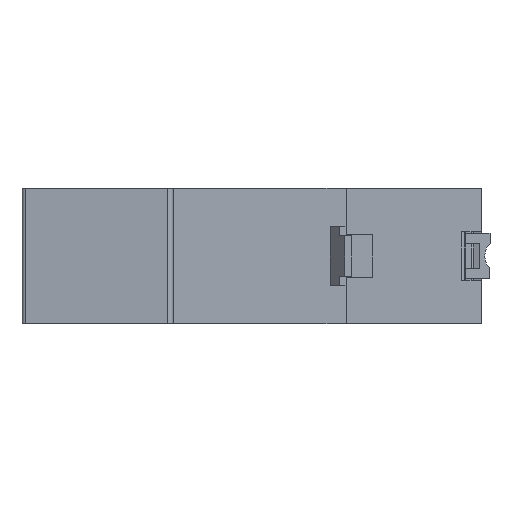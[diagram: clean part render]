
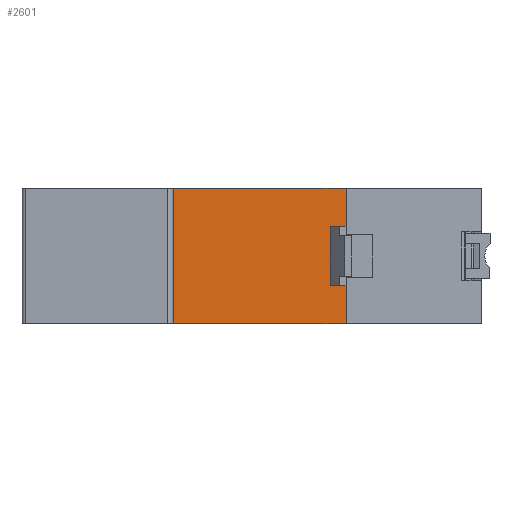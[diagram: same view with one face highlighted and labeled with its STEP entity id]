
A CAD part, front view. The second image highlights one B-rep face of the part: STEP entity #2601.
In plain terms, the highlighted planar face has unit normal (0, -1, 0).
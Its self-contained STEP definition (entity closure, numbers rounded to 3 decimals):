
#172 = EDGE_CURVE ( 'NONE', #1686, #1611, #5415, .T. ) ;
#363 = EDGE_CURVE ( 'NONE', #1611, #1609, #7275, .T. ) ;
#1609 = VERTEX_POINT ( 'NONE', #11028 ) ;
#1611 = VERTEX_POINT ( 'NONE', #11030 ) ;
#1686 = VERTEX_POINT ( 'NONE', #11105 ) ;
#1714 = VERTEX_POINT ( 'NONE', #11133 ) ;
#2601 = ADVANCED_FACE ( 'NONE', ( #16742 ), #16727, .F. ) ;
#3617 = EDGE_LOOP ( 'NONE', ( #4424, #4425, #4426, #4427 ) ) ;
#4424 = ORIENTED_EDGE ( 'NONE', *, *, #5198, .T. ) ;
#4425 = ORIENTED_EDGE ( 'NONE', *, *, #363, .F. ) ;
#4426 = ORIENTED_EDGE ( 'NONE', *, *, #172, .F. ) ;
#4427 = ORIENTED_EDGE ( 'NONE', *, *, #5199, .F. ) ;
#5198 = EDGE_CURVE ( 'NONE', #1714, #1609, #21442, .T. ) ;
#5199 = EDGE_CURVE ( 'NONE', #1714, #1686, #21449, .T. ) ;
#5415 = LINE ( 'NONE', #5416, #10832 ) ;
#5416 = CARTESIAN_POINT ( 'NONE',  ( -23.829, -32.772, -13.25 ) ) ;
#5417 = DIRECTION ( 'NONE',  ( -1., 0., 0. ) ) ;
#7271 = CARTESIAN_POINT ( 'NONE',  ( -23.829, -32.772, 13.25 ) ) ;
#7275 = LINE ( 'NONE', #7271, #7529 ) ;
#7283 = DIRECTION ( 'NONE',  ( 0., 0., 1. ) ) ;
#7529 = VECTOR ( 'NONE', #7283, 1000. ) ;
#10832 = VECTOR ( 'NONE', #5417, 1000. ) ;
#11028 = CARTESIAN_POINT ( 'NONE',  ( -23.829, -32.772, 13.25 ) ) ;
#11030 = CARTESIAN_POINT ( 'NONE',  ( -23.829, -32.772, -13.25 ) ) ;
#11105 = CARTESIAN_POINT ( 'NONE',  ( 12.171, -32.772, -13.25 ) ) ;
#11133 = CARTESIAN_POINT ( 'NONE',  ( 12.171, -32.772, 13.25 ) ) ;
#16544 = AXIS2_PLACEMENT_3D ( 'NONE', #16752, #16753, #16754 ) ;
#16727 = PLANE ( 'NONE',  #16544 ) ;
#16742 = FACE_OUTER_BOUND ( 'NONE', #3617, .T. ) ;
#16752 = CARTESIAN_POINT ( 'NONE',  ( -23.829, -32.772, 13.25 ) ) ;
#16753 = DIRECTION ( 'NONE',  ( 0., 1., 0. ) ) ;
#16754 = DIRECTION ( 'NONE',  ( -1., 0., 0. ) ) ;
#20532 = VECTOR ( 'NONE', #21457, 1000. ) ;
#20533 = VECTOR ( 'NONE', #21459, 1000. ) ;
#21442 = LINE ( 'NONE', #21455, #20532 ) ;
#21449 = LINE ( 'NONE', #21458, #20533 ) ;
#21455 = CARTESIAN_POINT ( 'NONE',  ( 38.671, -32.772, 13.25 ) ) ;
#21457 = DIRECTION ( 'NONE',  ( -1., 0., 0. ) ) ;
#21458 = CARTESIAN_POINT ( 'NONE',  ( 12.171, -32.772, 13.25 ) ) ;
#21459 = DIRECTION ( 'NONE',  ( 0., 0., -1. ) ) ;
